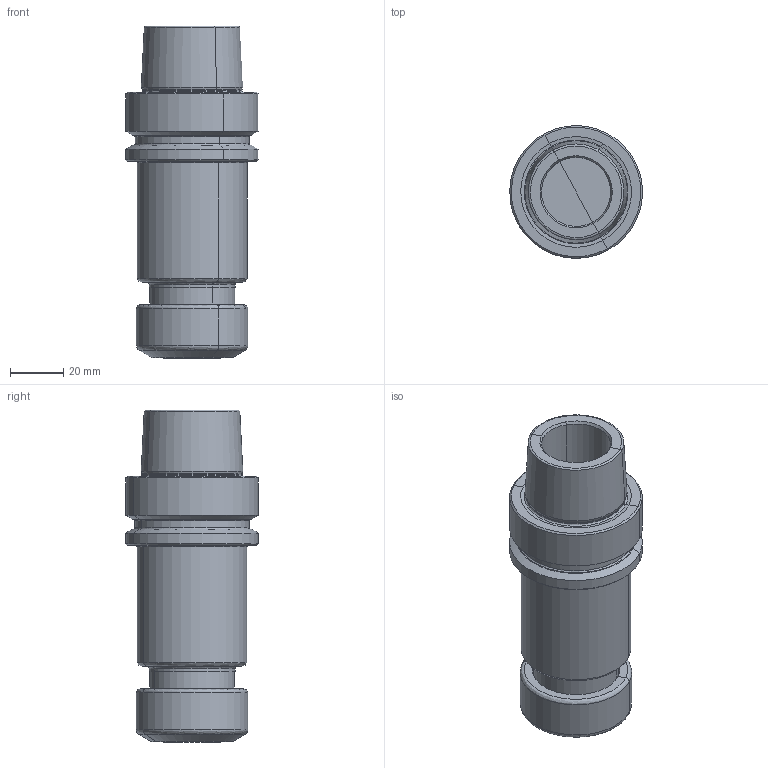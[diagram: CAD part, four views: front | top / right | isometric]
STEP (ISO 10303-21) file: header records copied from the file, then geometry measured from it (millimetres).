
FILE_DESCRIPTION(('CATIA V5 STEP','CAx-IF Rec.Pracs.--- Model Styling and Organization---1.2---2011-12-15'),'2;1');
FILE_NAME('\\nas01\drv1\utils\eitdev\rte\eit\transmagicconvert\db\out\635929422306854023\4500637 L.stp','2016-03-07T08:10:44+00:00',('none'),('none'),'CATIA Version 5 Release 21 SP 5 (IN-10)','CATIA V5 STEP AP214','none');
FILE_SCHEMA(('AUTOMOTIVE_DESIGN { 1 0 10303 214 1 1 1 1 }'));
Length unit declared in the file: millimetre
Products named in the file (1): HSK A 50 ER25X100
Bounding box: 49.91 x 49.99 x 125.04 mm (x, y, z)
Volume: 133877 mm3; surface area: 27364.6 mm2
Topology: 1 solids, 1 shells, 109 faces, 218 edges, 111 vertices
Faces by surface type: revolution 87, plane 22
Entity records: 3391 total; most frequent: CARTESIAN_POINT 1387, ORIENTED_EDGE 436, DIRECTION 246, EDGE_CURVE 218, B_SPLINE_CURVE_WITH_KNOTS 174, AXIS2_PLACEMENT_3D 126, CIRCLE 111, VERTEX_POINT 111
